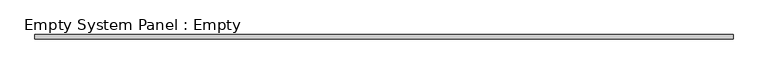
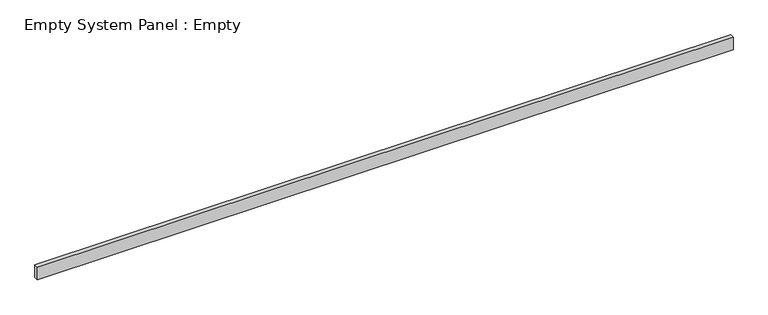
"""IFC4 building model written with IfcOpenShell, lengths in millimetres: plate geometry, Empty System Panel : Empty."""

import ifcopenshell
import ifcopenshell.guid

model = None  # the IFC model being written
_history = None  # IfcOwnerHistory: only IFC2X3 demands one
_inside = {}  # id of a spatial element -> (the spatial element, [elements in it])
_under = {}  # id of a project, library or spatial element -> (it, [spatial elements below it])
_declared = {}  # id of a project -> (the project, [libraries it declares])
_typed = {}  # id of a type object -> (the type object, [elements of that type])
_made_of = {}  # id of a material, layer set ... -> (it, [elements and type objects made of it])


def new_model(schema):
    """Start an empty IFC model of exactly this schema.

    Asked for "IFC4X3", IfcOpenShell would pick the latest addendum, in which some entities
    have other attributes; the version numbers below select the first issue.
    IFC2X3 requires an IfcOwnerHistory on every rooted entity: one is made here for all.
    """
    global model, _history
    if schema == "IFC4X3":
        model = ifcopenshell.file(schema_version=(4, 3, 0, 0))
    else:
        model = ifcopenshell.file(schema=schema)
    _inside.clear()
    _under.clear()
    _declared.clear()
    _typed.clear()
    _made_of.clear()
    _history = None
    if model.schema == "IFC2X3":
        org = make("IfcOrganization", Name="unknown")
        user = make(
            "IfcPersonAndOrganization",
            ThePerson=make("IfcPerson", FamilyName="unknown"),
            TheOrganization=org,
        )
        app = make(
            "IfcApplication",
            ApplicationDeveloper=org,
            Version="unknown",
            ApplicationFullName="unknown",
            ApplicationIdentifier="unknown",
        )
        _history = make(
            "IfcOwnerHistory",
            OwningUser=user,
            OwningApplication=app,
            ChangeAction="ADDED",
            CreationDate=0,
        )
    return model


def make(cls, **values):
    """One entity of the class cls with the attributes given. An attribute that is None is left unset."""
    return model.create_entity(
        cls, **{name: value for name, value in values.items() if value is not None}
    )


def rooted(cls, **values):
    """An entity with a GlobalId (a new one), such as an element, a storey or a relation."""
    return make(cls, GlobalId=ifcopenshell.guid.new(), OwnerHistory=_history, **values)


def si_unit(unit_type, name, prefix=None):
    """IfcSIUnit, for example si_unit("LENGTHUNIT", "METRE", prefix="MILLI")."""
    return make("IfcSIUnit", UnitType=unit_type, Prefix=prefix, Name=name)


def assignment(units):
    """IfcUnitAssignment: the units of a project."""
    return None if units is None else make("IfcUnitAssignment", Units=units)


def point(xyz):
    """IfcCartesianPoint."""
    return None if xyz is None else make("IfcCartesianPoint", Coordinates=xyz)


def direction(xyz):
    """IfcDirection."""
    return None if xyz is None else make("IfcDirection", DirectionRatios=xyz)


def frame(location, z_axis=None, x_axis=None):
    """IfcAxis2Placement3D, a coordinate frame: its origin and axes. An axis left out is left unset."""
    return make(
        "IfcAxis2Placement3D",
        Location=point(location),
        Axis=direction(z_axis),
        RefDirection=direction(x_axis),
    )


def origin():
    """The frame at (0, 0, 0) with its axes left unset."""
    return frame((0.0, 0.0, 0.0))


def origin_with_axes():
    """The frame at (0, 0, 0) with the z axis (0, 0, 1) and the x axis (1, 0, 0) written out."""
    return frame((0.0, 0.0, 0.0), z_axis=(0.0, 0.0, 1.0), x_axis=(1.0, 0.0, 0.0))


def place(relative_to, where):
    """IfcLocalPlacement: puts the frame where relative to a parent placement (None: the world)."""
    return make(
        "IfcLocalPlacement", PlacementRelTo=relative_to, RelativePlacement=where
    )


def context(
    kind, dimensions, precision=None, world=None, true_north=None, identifier=None
):
    """IfcGeometricRepresentationContext, for example the 3D "Model" context."""
    return make(
        "IfcGeometricRepresentationContext",
        ContextIdentifier=identifier,
        ContextType=kind,
        CoordinateSpaceDimension=dimensions,
        Precision=precision,
        WorldCoordinateSystem=world,
        TrueNorth=true_north,
    )


def project(units=None, contexts=None):
    """IfcProject with its units and contexts."""
    return rooted(
        "IfcProject",
        Name="project",
        RepresentationContexts=contexts,
        UnitsInContext=assignment(units),
    )


def spatial(cls, under=None, at=None, **own):
    """A site, building, storey or space (cls), placed at a placement, below another one or the project."""
    s = rooted(cls, ObjectPlacement=at, **own)
    if under is not None:
        _under.setdefault(under.id(), (under, []))[1].append(s)
    return s


def polyline(points):
    """IfcPolyline through the points."""
    return make("IfcPolyline", Points=[point(p) for p in points])


def outline(outer, holes=None, kind="AREA"):
    """IfcArbitraryClosedProfileDef: a profile drawn as a closed curve; with holes, ...WithVoids."""
    if holes is None:
        return make("IfcArbitraryClosedProfileDef", ProfileType=kind, OuterCurve=outer)
    return make(
        "IfcArbitraryProfileDefWithVoids",
        ProfileType=kind,
        OuterCurve=outer,
        InnerCurves=holes,
    )


def extrude(swept, where, along, depth):
    """IfcExtrudedAreaSolid: the profile swept, set in the frame where, extruded along a direction by depth."""
    return make(
        "IfcExtrudedAreaSolid",
        SweptArea=swept,
        Position=where,
        ExtrudedDirection=direction(along),
        Depth=depth,
    )


def shape(context_of_items, identifier, shape_type, items):
    """IfcShapeRepresentation: the items that make up one representation, for example the "Body"."""
    return make(
        "IfcShapeRepresentation",
        ContextOfItems=context_of_items,
        RepresentationIdentifier=identifier,
        RepresentationType=shape_type,
        Items=items,
    )


def source(mapping_origin, context_of_items, identifier, shape_type, items):
    """IfcRepresentationMap: a shape defined once, which mapped items show again and again."""
    return make(
        "IfcRepresentationMap",
        MappingOrigin=mapping_origin,
        MappedRepresentation=shape(context_of_items, identifier, shape_type, items),
    )


def transform(
    local_origin,
    x_axis=None,
    y_axis=None,
    z_axis=None,
    scale=None,
    scale2=None,
    scale3=None,
    uniform=True,
):
    """IfcCartesianTransformationOperator3D, or its non-uniform kind. x_axis, y_axis, z_axis: its Axis1, 2, 3."""
    if uniform:
        return make(
            "IfcCartesianTransformationOperator3D",
            Axis1=direction(x_axis),
            Axis2=direction(y_axis),
            LocalOrigin=point(local_origin),
            Scale=scale,
            Axis3=direction(z_axis),
        )
    return make(
        "IfcCartesianTransformationOperator3DnonUniform",
        Axis1=direction(x_axis),
        Axis2=direction(y_axis),
        LocalOrigin=point(local_origin),
        Scale=scale,
        Axis3=direction(z_axis),
        Scale2=scale2,
        Scale3=scale3,
    )


def mapped(mapping_source, mapping_target):
    """IfcMappedItem: shows the shape of a source again, moved by a transform."""
    return make(
        "IfcMappedItem", MappingSource=mapping_source, MappingTarget=mapping_target
    )


def made_of(thing, what):
    """Note that an element or type object is made of a material, layer set ...; save() writes the relation."""
    if what is not None:
        _made_of.setdefault(what.id(), (what, []))[1].append(thing)
    return thing


def element(
    cls,
    number,
    at=None,
    inside=None,
    cuts=None,
    type_object=None,
    material=None,
    context=None,
    identifier="Body",
    shape_type=None,
    held_by="IfcProductDefinitionShape",
    body=None,
    shapes=None,
    **own,
):
    """One element of the class cls, such as IfcWall. Its Tag is "e" and its number.

    at: its placement. inside: the storey or other place that contains it. cuts: it is an
    opening in that element (IfcRelVoidsElement). A single representation is given by context,
    identifier, shape_type and body (its items); several are given by shapes. held_by: the class
    of the entity that holds the representations. save() writes the other relations.
    """
    e = rooted(cls, Tag="e%d" % number, ObjectPlacement=at, **own)
    if body is not None:
        shapes = [shape(context, identifier, shape_type, body)]
    if shapes is not None:
        e.Representation = make(held_by, Representations=shapes)
    if inside is not None:
        _inside.setdefault(inside.id(), (inside, []))[1].append(e)
    if cuts is not None:
        rooted(
            "IfcRelVoidsElement", RelatingBuildingElement=cuts, RelatedOpeningElement=e
        )
    if type_object is not None:
        _typed.setdefault(type_object.id(), (type_object, []))[1].append(e)
    return made_of(e, material)


def aggregate(whole, parts):
    """IfcRelAggregates: a whole, such as a stair, and the parts it consists of."""
    return rooted("IfcRelAggregates", RelatingObject=whole, RelatedObjects=parts)


def save(model, path):
    """Write the relations noted so far, then the file.

    IfcRelAggregates (storeys below a building ...), IfcRelContainedInSpatialStructure (elements
    in a storey), IfcRelDefinesByType, IfcRelAssociatesMaterial and IfcRelDeclares: one each for
    every whole, place, type object, material and project.
    """
    for whole, parts in _under.values():
        aggregate(whole, parts)
    for where, things in _inside.values():
        rooted(
            "IfcRelContainedInSpatialStructure",
            RelatedElements=things,
            RelatingStructure=where,
        )
    for kind, things in _typed.values():
        rooted("IfcRelDefinesByType", RelatedObjects=things, RelatingType=kind)
    for what, things in _made_of.values():
        rooted("IfcRelAssociatesMaterial", RelatedObjects=things, RelatingMaterial=what)
    for by, libraries in _declared.values():
        rooted("IfcRelDeclares", RelatingContext=by, RelatedDefinitions=libraries)
    model.write(path)


def empty_system_panel_empty_0cb638c6(model_context):
    return source(origin(), model_context, "Body", "SweptSolid", [
        extrude(outline(polyline([(8147.5, -50.0), (-8147.5, -50.0), (-8147.5, 50.0), (8147.5, 50.0), (8147.5, -50.0)])), origin_with_axes(), (0.0, 0.0, 1.0), 310.0),
    ])


if __name__ == "__main__":
    model = new_model("IFC4")
    model_context = context("Model", 3, world=origin())
    ifc_project = project(units=[si_unit("LENGTHUNIT", "METRE", prefix="MILLI")], contexts=[model_context])
    site = spatial("IfcSite", under=ifc_project)
    building = spatial("IfcBuilding", under=site)
    placement = place(None, origin())
    empty_system_panel_empty_shape = empty_system_panel_empty_0cb638c6(model_context)
    element("IfcPlate", 1, ObjectType="Empty System Panel : Empty", at=placement, inside=building, context=model_context, shape_type="MappedRepresentation", body=[
        mapped(empty_system_panel_empty_shape, transform((0.0, 0.0, 0.0), x_axis=(1.0, 0.0, 0.0), y_axis=(0.0, 1.0, 0.0), z_axis=(0.0, 0.0, 1.0))),
    ])
    save(model, "model.ifc")
